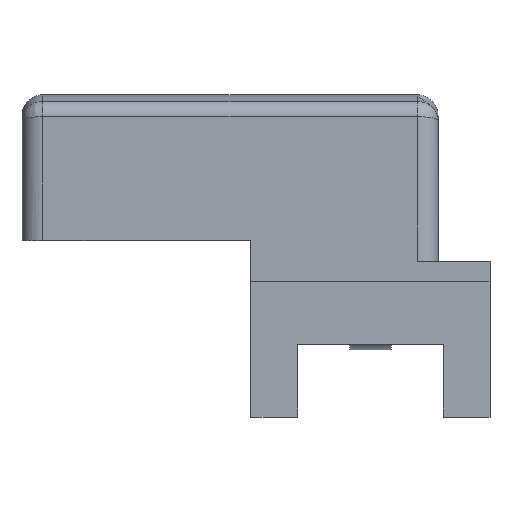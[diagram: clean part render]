
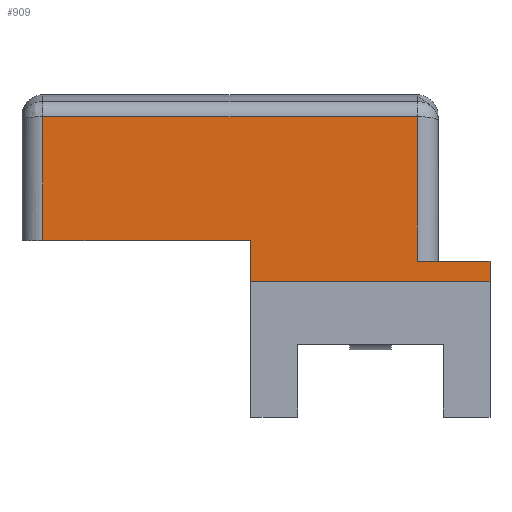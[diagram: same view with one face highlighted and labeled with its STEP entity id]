
A CAD part, top view. The second image highlights one B-rep face of the part: STEP entity #909.
In plain terms, the highlighted planar face has unit normal (0, 0, 1).
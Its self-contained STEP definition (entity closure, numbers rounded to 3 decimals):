
#31=PLANE('',#980);
#79=FACE_OUTER_BOUND('',#131,.T.);
#131=EDGE_LOOP('',(#682,#683,#684,#685,#686,#687,#688,#689));
#197=LINE('',#1505,#308);
#198=LINE('',#1565,#309);
#200=LINE('',#1571,#311);
#201=LINE('',#1573,#312);
#202=LINE('',#1575,#313);
#203=LINE('',#1577,#314);
#204=LINE('',#1579,#315);
#205=LINE('',#1580,#316);
#308=VECTOR('',#1083,10.);
#309=VECTOR('',#1086,10.);
#311=VECTOR('',#1092,10.);
#312=VECTOR('',#1093,10.);
#313=VECTOR('',#1094,10.);
#314=VECTOR('',#1095,10.);
#315=VECTOR('',#1096,10.);
#316=VECTOR('',#1097,10.);
#437=VERTEX_POINT('',#1490);
#438=VERTEX_POINT('',#1501);
#441=VERTEX_POINT('',#1564);
#443=VERTEX_POINT('',#1570);
#444=VERTEX_POINT('',#1572);
#445=VERTEX_POINT('',#1574);
#446=VERTEX_POINT('',#1576);
#447=VERTEX_POINT('',#1578);
#530=EDGE_CURVE('',#437,#438,#197,.T.);
#533=EDGE_CURVE('',#438,#441,#198,.T.);
#536=EDGE_CURVE('',#443,#437,#200,.T.);
#537=EDGE_CURVE('',#443,#444,#201,.T.);
#538=EDGE_CURVE('',#444,#445,#202,.T.);
#539=EDGE_CURVE('',#445,#446,#203,.T.);
#540=EDGE_CURVE('',#446,#447,#204,.T.);
#541=EDGE_CURVE('',#447,#441,#205,.T.);
#682=ORIENTED_EDGE('',*,*,#530,.F.);
#683=ORIENTED_EDGE('',*,*,#536,.F.);
#684=ORIENTED_EDGE('',*,*,#537,.T.);
#685=ORIENTED_EDGE('',*,*,#538,.T.);
#686=ORIENTED_EDGE('',*,*,#539,.T.);
#687=ORIENTED_EDGE('',*,*,#540,.T.);
#688=ORIENTED_EDGE('',*,*,#541,.T.);
#689=ORIENTED_EDGE('',*,*,#533,.F.);
#909=ADVANCED_FACE('',(#79),#31,.T.);
#980=AXIS2_PLACEMENT_3D('',#1569,#1090,#1091);
#1083=DIRECTION('',(1.,0.,0.));
#1086=DIRECTION('',(0.,-1.,0.));
#1090=DIRECTION('center_axis',(0.,0.,1.));
#1091=DIRECTION('ref_axis',(1.,0.,0.));
#1092=DIRECTION('',(0.,1.,0.));
#1093=DIRECTION('',(1.,0.,0.));
#1094=DIRECTION('',(0.,-1.,0.));
#1095=DIRECTION('',(1.,0.,0.));
#1096=DIRECTION('',(0.,1.,0.));
#1097=DIRECTION('',(-1.,0.,0.));
#1490=CARTESIAN_POINT('',(-10.,12.947,6.));
#1501=CARTESIAN_POINT('',(8.,12.947,6.));
#1505=CARTESIAN_POINT('',(-11.,12.947,6.));
#1564=CARTESIAN_POINT('',(8.,6.,6.));
#1565=CARTESIAN_POINT('',(8.,6.125,6.));
#1569=CARTESIAN_POINT('Origin',(0.25,6.25,6.));
#1570=CARTESIAN_POINT('',(-10.,7.,6.));
#1571=CARTESIAN_POINT('',(-10.,10.125,6.));
#1572=CARTESIAN_POINT('',(0.,7.,6.));
#1573=CARTESIAN_POINT('',(-11.,7.,6.));
#1574=CARTESIAN_POINT('',(0.,5.,6.));
#1575=CARTESIAN_POINT('',(0.,7.,6.));
#1576=CARTESIAN_POINT('',(11.5,5.,6.));
#1577=CARTESIAN_POINT('',(5.875,5.,6.));
#1578=CARTESIAN_POINT('',(11.5,6.,6.));
#1579=CARTESIAN_POINT('',(11.5,2.,6.));
#1580=CARTESIAN_POINT('',(8.,6.,6.));
